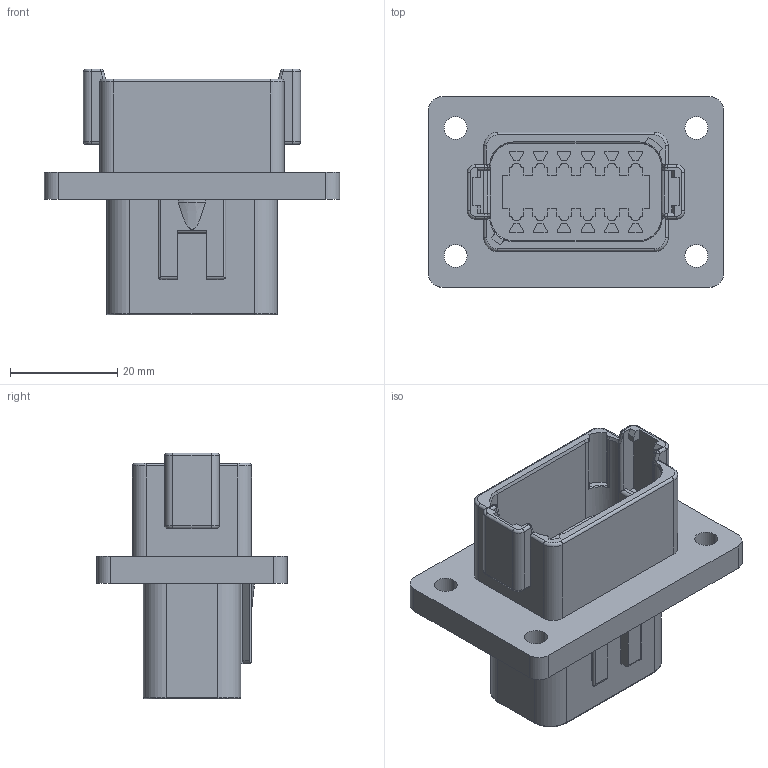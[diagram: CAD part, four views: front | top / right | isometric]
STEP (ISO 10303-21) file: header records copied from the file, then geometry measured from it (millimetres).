
FILE_DESCRIPTION((''),'2;1');
FILE_NAME('C-DT04-12PC-L012','2013-06-21T',('workeradm'),('Tyco Electronics Ltd.'),'PRO/ENGINEER BY PARAMETRIC TECHNOLOGY CORPORATION, 2011490','PRO/ENGINEER BY PARAMETRIC TECHNOLOGY CORPORATION, 2011490','');
FILE_SCHEMA(('AUTOMOTIVE_DESIGN { 1 0 10303 214 1 1 1 1 }'));
Length unit declared in the file: millimetre
Products named in the file (1): C-DT04-12PC-L012
Bounding box: 55.12 x 35.56 x 45.92 mm (x, y, z)
Volume: 24519.5 mm3; surface area: 12030.7 mm2
Topology: 1 solids, 1 shells, 626 faces, 1619 edges, 1025 vertices
Faces by surface type: plane 365, cylinder 150, torus 68, cone 31, sphere 8, bspline 4
Entity records: 20393 total; most frequent: CARTESIAN_POINT 4544, ORIENTED_EDGE 3238, DIRECTION 3227, EDGE_CURVE 1619, VECTOR 1171, LINE 1171, AXIS2_PLACEMENT_3D 1028, VERTEX_POINT 1025
